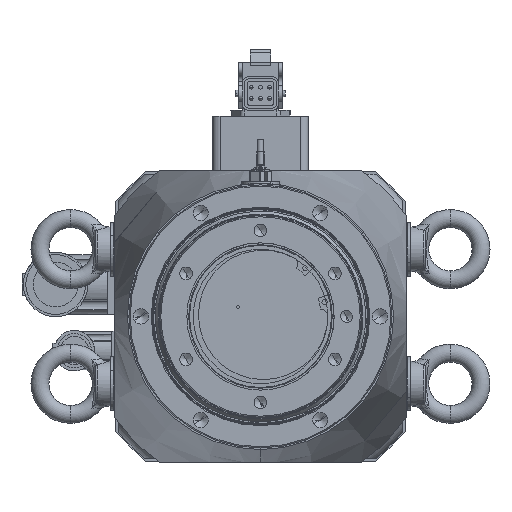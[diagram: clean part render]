
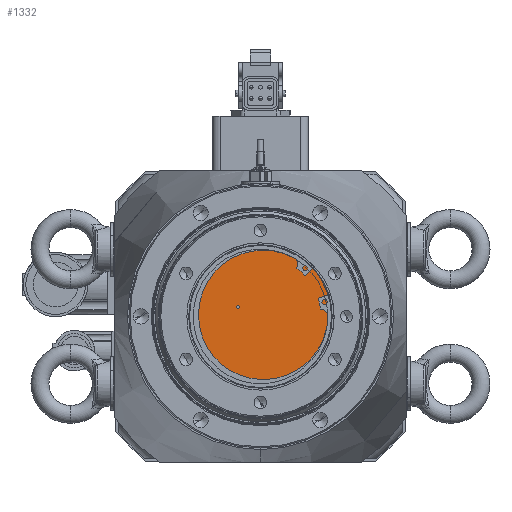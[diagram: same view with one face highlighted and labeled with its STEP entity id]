
A CAD part, front view. The second image highlights one B-rep face of the part: STEP entity #1332.
In plain terms, the highlighted planar face has unit normal (0, -1, 0).
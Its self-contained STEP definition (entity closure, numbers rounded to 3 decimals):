
#1332 = ADVANCED_FACE ( 'NONE', ( #86347, #33752 ), #35672, .F. ) ;
#1792 = CARTESIAN_POINT ( 'NONE',  ( -138.136, -290.221, -120.75 ) ) ;
#1875 = DIRECTION ( 'NONE',  ( 0.866, 0., 0.5 ) ) ;
#2094 = VERTEX_POINT ( 'NONE', #1792 ) ;
#3749 = EDGE_CURVE ( 'NONE', #2094, #45342, #20321, .T. ) ;
#3752 = EDGE_CURVE ( 'NONE', #38897, #44718, #79327, .T. ) ;
#3893 = DIRECTION ( 'NONE',  ( 0., 1., 0. ) ) ;
#3927 = AXIS2_PLACEMENT_3D ( 'NONE', #79021, #78327, #13163 ) ;
#4244 = DIRECTION ( 'NONE',  ( 0., 1., 0. ) ) ;
#6606 = ORIENTED_EDGE ( 'NONE', *, *, #40780, .T. ) ;
#12801 = CARTESIAN_POINT ( 'NONE',  ( -112.139, -290.221, -90.763 ) ) ;
#13163 = DIRECTION ( 'NONE',  ( 0.866, 0., 0.5 ) ) ;
#19113 = CARTESIAN_POINT ( 'NONE',  ( -55.864, -290.221, -73.25 ) ) ;
#20321 = CIRCLE ( 'NONE', #3927, 47.5 ) ;
#20567 = CARTESIAN_POINT ( 'NONE',  ( -113.005, -290.221, -91.263 ) ) ;
#23961 = EDGE_CURVE ( 'NONE', #45342, #2094, #70876, .T. ) ;
#27223 = EDGE_LOOP ( 'NONE', ( #50112, #6606 ) ) ;
#27493 = AXIS2_PLACEMENT_3D ( 'NONE', #68052, #92369, #1875 ) ;
#32477 = CARTESIAN_POINT ( 'NONE',  ( -112.139, -290.221, -90.763 ) ) ;
#33013 = CARTESIAN_POINT ( 'NONE',  ( -111.273, -290.221, -90.263 ) ) ;
#33752 = FACE_BOUND ( 'NONE', #27223, .T. ) ;
#35297 = EDGE_LOOP ( 'NONE', ( #92472, #66795 ) ) ;
#35672 = PLANE ( 'NONE',  #84696 ) ;
#38897 = VERTEX_POINT ( 'NONE', #20567 ) ;
#39248 = DIRECTION ( 'NONE',  ( 0.866, 0., 0.5 ) ) ;
#39797 = AXIS2_PLACEMENT_3D ( 'NONE', #32477, #106254, #39248 ) ;
#40780 = EDGE_CURVE ( 'NONE', #44718, #38897, #45078, .T. ) ;
#43922 = CARTESIAN_POINT ( 'NONE',  ( -97., -290.221, -97. ) ) ;
#44269 = DIRECTION ( 'NONE',  ( 0.866, 0., 0.5 ) ) ;
#44718 = VERTEX_POINT ( 'NONE', #33013 ) ;
#45078 = CIRCLE ( 'NONE', #39797, 1. ) ;
#45342 = VERTEX_POINT ( 'NONE', #19113 ) ;
#50112 = ORIENTED_EDGE ( 'NONE', *, *, #3752, .T. ) ;
#55330 = AXIS2_PLACEMENT_3D ( 'NONE', #12801, #4244, #78679 ) ;
#66795 = ORIENTED_EDGE ( 'NONE', *, *, #23961, .F. ) ;
#68052 = CARTESIAN_POINT ( 'NONE',  ( -97., -290.221, -97. ) ) ;
#70876 = CIRCLE ( 'NONE', #27493, 47.5 ) ;
#78327 = DIRECTION ( 'NONE',  ( 0., 1., 0. ) ) ;
#78679 = DIRECTION ( 'NONE',  ( 0.866, 0., 0.5 ) ) ;
#79021 = CARTESIAN_POINT ( 'NONE',  ( -97., -290.221, -97. ) ) ;
#79327 = CIRCLE ( 'NONE', #55330, 1. ) ;
#84696 = AXIS2_PLACEMENT_3D ( 'NONE', #43922, #3893, #44269 ) ;
#86347 = FACE_OUTER_BOUND ( 'NONE', #35297, .T. ) ;
#92369 = DIRECTION ( 'NONE',  ( 0., 1., 0. ) ) ;
#92472 = ORIENTED_EDGE ( 'NONE', *, *, #3749, .F. ) ;
#106254 = DIRECTION ( 'NONE',  ( 0., 1., 0. ) ) ;
